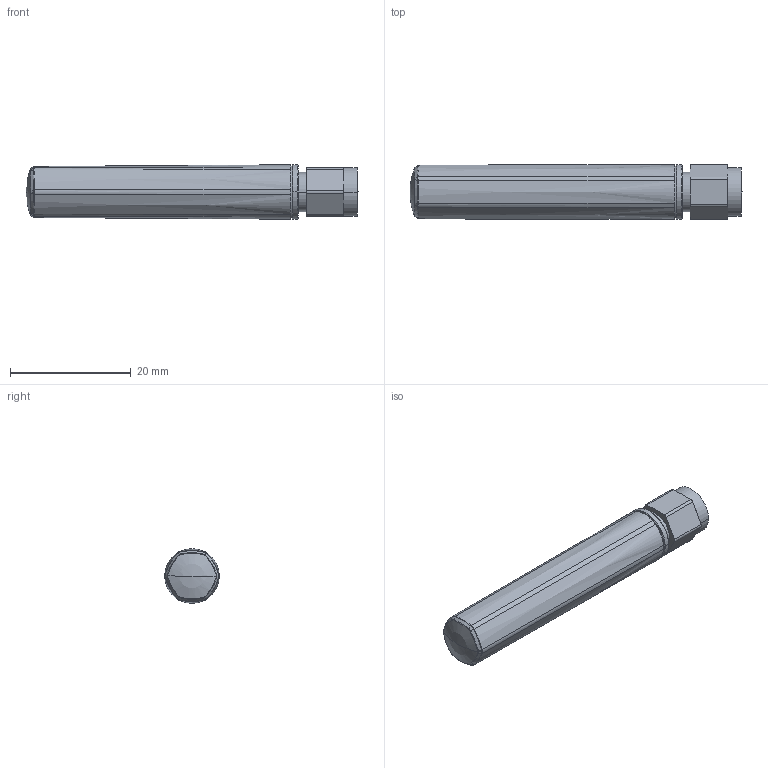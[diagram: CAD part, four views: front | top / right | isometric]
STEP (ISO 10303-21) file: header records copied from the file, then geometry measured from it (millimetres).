
FILE_DESCRIPTION((''),'2;1');
FILE_NAME('SMA-2_1','2025-01-13T11:08:01',('steven.mo'),(''),'CREO PARAMETRIC BY PTC INC, 2019010','CREO PARAMETRIC BY PTC INC, 2019010','');
FILE_SCHEMA(('CONFIG_CONTROL_DESIGN','SHAPE_APPEARANCE_LAYERS_GROUPS'));
Length unit declared in the file: millimetre
Products named in the file (1): SMA-2_1
Bounding box: 54.9 x 9.08 x 9 mm (x, y, z)
Volume: 2051.1 mm3; surface area: 2771.7 mm2
Topology: 1 solids, 2 shells, 922 faces, 2955 edges, 1940 vertices
Faces by surface type: plane 417, cone 281, bspline 148, cylinder 66, torus 6, sphere 4
Entity records: 46531 total; most frequent: CARTESIAN_POINT 19438, ORIENTED_EDGE 5902, EDGE_CURVE 2951, DIRECTION 2611, B_SPLINE_CURVE_WITH_KNOTS 2260, VERTEX_POINT 1940, AXIS2_PLACEMENT_3D 1146, EDGE_LOOP 1015
